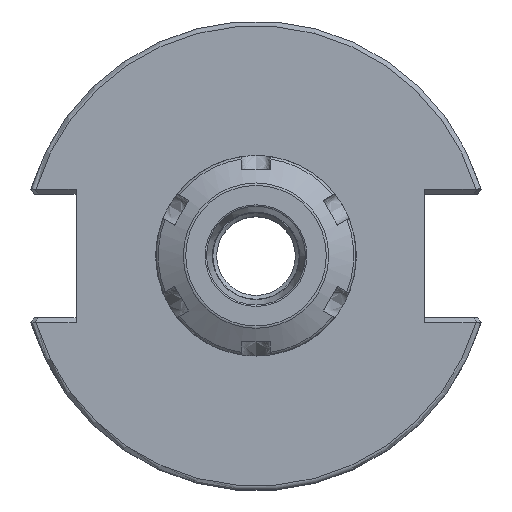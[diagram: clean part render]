
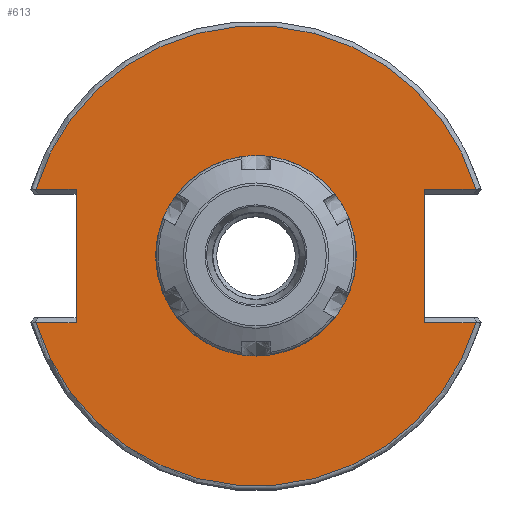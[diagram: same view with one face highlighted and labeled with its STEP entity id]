
A CAD part, top view. The second image highlights one B-rep face of the part: STEP entity #613.
In plain terms, the highlighted planar face has unit normal (0, 0, 1).
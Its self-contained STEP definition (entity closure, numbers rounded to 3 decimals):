
#331=FACE_BOUND('',#869,.T.);
#332=FACE_BOUND('',#870,.T.);
#485=PLANE('',#2872);
#613=ADVANCED_FACE('',(#331,#332),#485,.T.);
#869=EDGE_LOOP('',(#1745));
#870=EDGE_LOOP('',(#1746,#1747,#1748,#1749,#1750,#1751,#1752,#1753));
#1047=CIRCLE('',#2866,48.215);
#1048=CIRCLE('',#2870,19.);
#1049=CIRCLE('',#2871,48.215);
#1151=LINE('',#4629,#1289);
#1152=LINE('',#4631,#1290);
#1153=LINE('',#4633,#1291);
#1154=LINE('',#4637,#1292);
#1155=LINE('',#4639,#1293);
#1156=LINE('',#4641,#1294);
#1289=VECTOR('',#3332,1.);
#1290=VECTOR('',#3333,1.);
#1291=VECTOR('',#3334,1.);
#1292=VECTOR('',#3337,1.);
#1293=VECTOR('',#3338,1.);
#1294=VECTOR('',#3339,1.);
#1745=ORIENTED_EDGE('',*,*,#2517,.T.);
#1746=ORIENTED_EDGE('',*,*,#2518,.T.);
#1747=ORIENTED_EDGE('',*,*,#2519,.T.);
#1748=ORIENTED_EDGE('',*,*,#2520,.T.);
#1749=ORIENTED_EDGE('',*,*,#2521,.T.);
#1750=ORIENTED_EDGE('',*,*,#2522,.T.);
#1751=ORIENTED_EDGE('',*,*,#2523,.F.);
#1752=ORIENTED_EDGE('',*,*,#2524,.T.);
#1753=ORIENTED_EDGE('',*,*,#2509,.T.);
#2207=VERTEX_POINT('',#4543);
#2208=VERTEX_POINT('',#4545);
#2211=VERTEX_POINT('',#4628);
#2212=VERTEX_POINT('',#4630);
#2213=VERTEX_POINT('',#4632);
#2214=VERTEX_POINT('',#4634);
#2215=VERTEX_POINT('',#4636);
#2216=VERTEX_POINT('',#4638);
#2217=VERTEX_POINT('',#4640);
#2509=EDGE_CURVE('',#2208,#2207,#1047,.T.);
#2517=EDGE_CURVE('',#2211,#2211,#1048,.T.);
#2518=EDGE_CURVE('',#2207,#2212,#1151,.T.);
#2519=EDGE_CURVE('',#2212,#2213,#1152,.T.);
#2520=EDGE_CURVE('',#2213,#2214,#1153,.T.);
#2521=EDGE_CURVE('',#2214,#2215,#1049,.T.);
#2522=EDGE_CURVE('',#2215,#2216,#1154,.T.);
#2523=EDGE_CURVE('',#2217,#2216,#1155,.T.);
#2524=EDGE_CURVE('',#2217,#2208,#1156,.T.);
#2866=AXIS2_PLACEMENT_3D('',#4544,#3322,#3323);
#2870=AXIS2_PLACEMENT_3D('',#4627,#3330,#3331);
#2871=AXIS2_PLACEMENT_3D('',#4635,#3335,#3336);
#2872=AXIS2_PLACEMENT_3D('',#4642,#3340,#3341);
#3322=DIRECTION('',(0.,0.,1.));
#3323=DIRECTION('',(1.,0.,0.));
#3330=DIRECTION('',(0.,0.,-1.));
#3331=DIRECTION('',(1.,0.,0.));
#3332=DIRECTION('',(-1.,0.,0.));
#3333=DIRECTION('',(0.,1.,0.));
#3334=DIRECTION('',(1.,0.,0.));
#3335=DIRECTION('',(0.,0.,1.));
#3336=DIRECTION('',(1.,0.,0.));
#3337=DIRECTION('',(1.,0.,0.));
#3338=DIRECTION('',(0.,1.,0.));
#3339=DIRECTION('',(-1.,0.,0.));
#3340=DIRECTION('',(0.,0.,1.));
#3341=DIRECTION('',(-1.,0.,0.));
#4543=CARTESIAN_POINT('',(46.151,-13.955,120.65));
#4544=CARTESIAN_POINT('',(0.,0.,120.65));
#4545=CARTESIAN_POINT('',(-46.151,-13.955,120.65));
#4627=CARTESIAN_POINT('',(0.,0.,120.65));
#4628=CARTESIAN_POINT('',(19.,0.,120.65));
#4629=CARTESIAN_POINT('',(0.,-13.955,120.65));
#4630=CARTESIAN_POINT('',(35.31,-13.955,120.65));
#4631=CARTESIAN_POINT('',(35.31,-49.215,120.65));
#4632=CARTESIAN_POINT('',(35.31,13.955,120.65));
#4633=CARTESIAN_POINT('',(0.,13.955,120.65));
#4634=CARTESIAN_POINT('',(46.151,13.955,120.65));
#4635=CARTESIAN_POINT('',(0.,0.,120.65));
#4636=CARTESIAN_POINT('',(-46.151,13.955,120.65));
#4637=CARTESIAN_POINT('',(-37.72,13.955,120.65));
#4638=CARTESIAN_POINT('',(-37.72,13.955,120.65));
#4639=CARTESIAN_POINT('',(-37.72,-49.215,120.65));
#4640=CARTESIAN_POINT('',(-37.72,-13.955,120.65));
#4641=CARTESIAN_POINT('',(-46.442,-13.955,120.65));
#4642=CARTESIAN_POINT('',(0.,-49.215,120.65));
